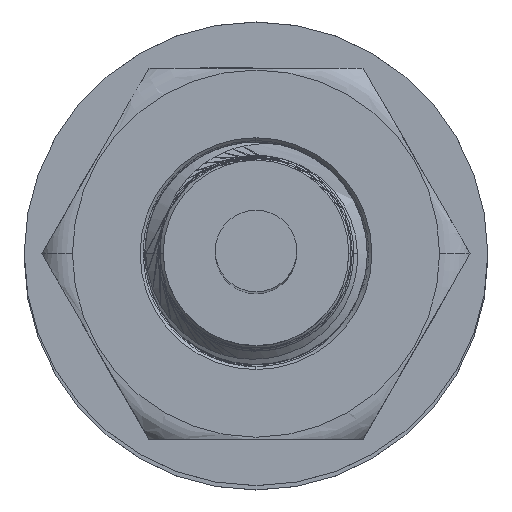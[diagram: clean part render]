
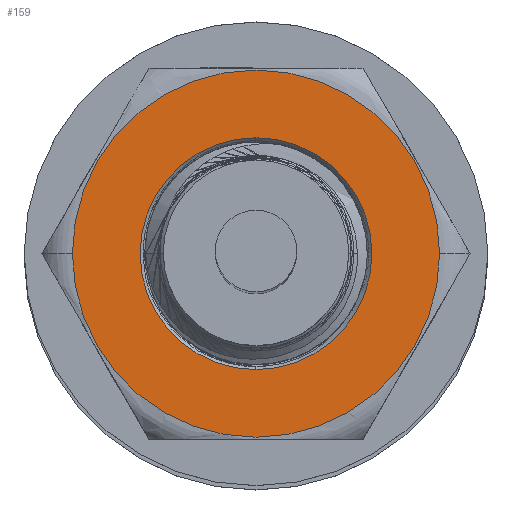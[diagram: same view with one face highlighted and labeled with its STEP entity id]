
A CAD part, top view. The second image highlights one B-rep face of the part: STEP entity #159.
In plain terms, the highlighted planar face has unit normal (0, 0, 1) as drawn and (0, 1, 0) by its records, which use the part's own axes.
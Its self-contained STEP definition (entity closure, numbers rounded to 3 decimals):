
#2 = DIRECTION ( 'NONE',  ( 0., -1., 0. ) ) ;
#159 = ADVANCED_FACE ( 'NONE', ( #7106, #9425 ), #4696, .T. ) ;
#270 = CIRCLE ( 'NONE', #8960, 4.95 ) ;
#965 = VERTEX_POINT ( 'NONE', #4743 ) ;
#1082 = EDGE_LOOP ( 'NONE', ( #11202, #6954 ) ) ;
#1187 = DIRECTION ( 'NONE',  ( 0., 0., 1. ) ) ;
#1428 = CARTESIAN_POINT ( 'NONE',  ( -4.95, 2.5, 0. ) ) ;
#1861 = VERTEX_POINT ( 'NONE', #12326 ) ;
#2034 = AXIS2_PLACEMENT_3D ( 'NONE', #7698, #6538, #13381 ) ;
#2198 = CARTESIAN_POINT ( 'NONE',  ( 0., 2.5, 0. ) ) ;
#2341 = CARTESIAN_POINT ( 'NONE',  ( 0., 2.5, 0. ) ) ;
#2355 = DIRECTION ( 'NONE',  ( 0., 0., 1. ) ) ;
#2553 = ORIENTED_EDGE ( 'NONE', *, *, #13801, .T. ) ;
#3050 = AXIS2_PLACEMENT_3D ( 'NONE', #2198, #3216, #1187 ) ;
#3216 = DIRECTION ( 'NONE',  ( 0., -1., 0. ) ) ;
#4001 = AXIS2_PLACEMENT_3D ( 'NONE', #15002, #5643, #9207 ) ;
#4696 = PLANE ( 'NONE',  #4868 ) ;
#4743 = CARTESIAN_POINT ( 'NONE',  ( 0., 2.5, 3.125 ) ) ;
#4868 = AXIS2_PLACEMENT_3D ( 'NONE', #11855, #5792, #2355 ) ;
#5643 = DIRECTION ( 'NONE',  ( 0., -1., 0. ) ) ;
#5792 = DIRECTION ( 'NONE',  ( 0., 1., 0. ) ) ;
#6425 = CARTESIAN_POINT ( 'NONE',  ( 4.95, 2.5, 0. ) ) ;
#6538 = DIRECTION ( 'NONE',  ( 0., -1., 0. ) ) ;
#6954 = ORIENTED_EDGE ( 'NONE', *, *, #9104, .F. ) ;
#7106 = FACE_BOUND ( 'NONE', #8863, .T. ) ;
#7395 = DIRECTION ( 'NONE',  ( 1., 0., 0. ) ) ;
#7690 = EDGE_CURVE ( 'NONE', #1861, #965, #10972, .T. ) ;
#7698 = CARTESIAN_POINT ( 'NONE',  ( 0., 2.5, 0. ) ) ;
#8507 = CIRCLE ( 'NONE', #3050, 3.125 ) ;
#8726 = VERTEX_POINT ( 'NONE', #6425 ) ;
#8863 = EDGE_LOOP ( 'NONE', ( #2553, #8904 ) ) ;
#8904 = ORIENTED_EDGE ( 'NONE', *, *, #7690, .T. ) ;
#8960 = AXIS2_PLACEMENT_3D ( 'NONE', #2341, #2, #7395 ) ;
#9104 = EDGE_CURVE ( 'NONE', #10123, #8726, #14201, .T. ) ;
#9207 = DIRECTION ( 'NONE',  ( 1., 0., 0. ) ) ;
#9425 = FACE_OUTER_BOUND ( 'NONE', #1082, .T. ) ;
#10123 = VERTEX_POINT ( 'NONE', #1428 ) ;
#10719 = EDGE_CURVE ( 'NONE', #8726, #10123, #270, .T. ) ;
#10972 = CIRCLE ( 'NONE', #2034, 3.125 ) ;
#11202 = ORIENTED_EDGE ( 'NONE', *, *, #10719, .F. ) ;
#11855 = CARTESIAN_POINT ( 'NONE',  ( 0., 2.5, 0. ) ) ;
#12326 = CARTESIAN_POINT ( 'NONE',  ( 0., 2.5, -3.125 ) ) ;
#13381 = DIRECTION ( 'NONE',  ( 0., 0., 1. ) ) ;
#13801 = EDGE_CURVE ( 'NONE', #965, #1861, #8507, .T. ) ;
#14201 = CIRCLE ( 'NONE', #4001, 4.95 ) ;
#15002 = CARTESIAN_POINT ( 'NONE',  ( 0., 2.5, 0. ) ) ;
